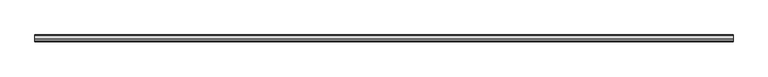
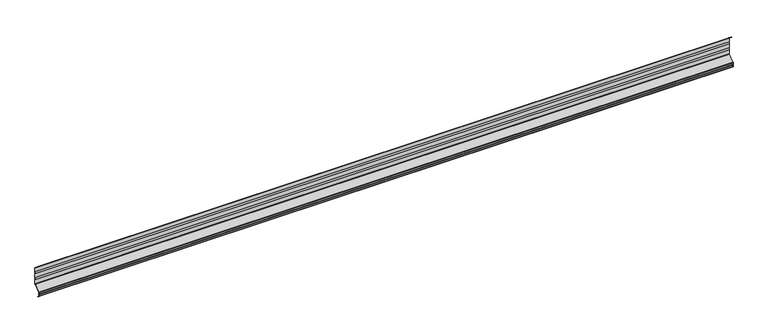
"""IFC4 building model written with IfcOpenShell, lengths in millimetres: plate geometry, HIANSA - H20.F09.004-CHAPA PERFILADA FACHADA HORIZONTAL - MT42 - Panel de Muro Cortina : -."""

from ifc_helpers import new_model, si_unit, point, frame, frame_2d, origin, place, context, project, spatial, polyline, circle_curve, trimmed, segment, composite_curve, outline, extrude, source, transform, mapped, element, save


def plate_d732e31f(model_context):
    return source(origin(), model_context, "Body", "SweptSolid", [
        extrude(outline(composite_curve([segment(polyline([(-1.8244302, 155.284153), (-25.0798035, 173.0), (-23.7596462, 173.0), (-1.3396394, 155.9205318)]), True, "CONTINUOUS"), segment(trimmed(circle_curve(frame_2d((-3.4, 153.2159219)), 3.4), [point((-1.3396394, 155.9205318))], [point((0.0, 153.2159219))], False, "CARTESIAN"), True, "CONTINUOUS"), segment(polyline([(0.0, 153.2159219), (0.0, 125.9329588)]), True, "CONTINUOUS"), segment(trimmed(circle_curve(frame_2d((17.1, 120.0)), 18.1), [point((0.0, 125.9329588))], [point((0.0, 114.0670412))], True, "CARTESIAN"), True, "CONTINUOUS"), segment(polyline([(0.0, 114.0670412), (0.0, 85.9329588)]), True, "CONTINUOUS"), segment(trimmed(circle_curve(frame_2d((17.1, 80.0)), 18.1), [point((0.0, 85.9329588))], [point((0.0, 74.0670412))], True, "CARTESIAN"), True, "CONTINUOUS"), segment(polyline([(0.0, 74.0670412), (0.0, 45.9499932)]), True, "CONTINUOUS"), segment(trimmed(circle_curve(frame_2d((-3.4, 45.9499932)), 3.4), [point((0.0, 45.9499932))], [point((-1.3396394, 43.2453834))], False, "CARTESIAN"), True, "CONTINUOUS"), segment(polyline([(-1.3396394, 43.2453834), (-40.2755698, 13.584153)]), True, "CONTINUOUS"), segment(trimmed(circle_curve(frame_2d((-38.7, 11.5159219)), 2.6), [point((-40.2755698, 13.584153))], [point((-41.3, 11.5159219))], True, "CARTESIAN"), True, "CONTINUOUS"), segment(polyline([(-41.3, 11.5159219), (-41.3, 2.5690465)]), True, "CONTINUOUS"), segment(trimmed(circle_curve(frame_2d((-44.1, 0.0)), 3.8), [point((-41.3, 2.5690465))], [point((-41.3, -2.5690465))], False, "CARTESIAN"), True, "CONTINUOUS"), segment(polyline([(-41.3, -2.5690465), (-41.3, -11.5159219)]), True, "CONTINUOUS"), segment(trimmed(circle_curve(frame_2d((-38.7, -11.5159219)), 2.6), [point((-41.3, -11.5159219))], [point((-40.2755698, -13.584153))], True, "CARTESIAN"), True, "CONTINUOUS"), segment(polyline([(-40.2755698, -13.584153), (-31.7588447, -20.0721589), (-31.7588447, -21.0778492), (-40.7603606, -14.2205318)]), True, "CONTINUOUS"), segment(trimmed(circle_curve(frame_2d((-38.7, -11.5159219)), 3.4), [point((-40.7603606, -14.2205318))], [point((-42.1, -11.5159219))], False, "CARTESIAN"), True, "CONTINUOUS"), segment(polyline([(-42.1, -11.5159219), (-42.1, -2.7568097)]), True, "CONTINUOUS"), segment(trimmed(circle_curve(frame_2d((-40.8, -2.7568097)), 1.3), [point((-42.1, -2.7568097))], [point((-41.7976744, -1.9233556))], False, "CARTESIAN"), True, "CONTINUOUS"), segment(trimmed(circle_curve(frame_2d((-44.1, 0.0)), 3.0), [point((-41.7976744, -1.9233556))], [point((-41.7976744, 1.9233556))], True, "CARTESIAN"), True, "CONTINUOUS"), segment(trimmed(circle_curve(frame_2d((-40.8, 2.7568097)), 1.3), [point((-41.7976744, 1.9233556))], [point((-42.1, 2.7568097))], False, "CARTESIAN"), True, "CONTINUOUS"), segment(polyline([(-42.1, 2.7568097), (-42.1, 11.5159219)]), True, "CONTINUOUS"), segment(trimmed(circle_curve(frame_2d((-38.7, 11.5159219)), 3.4), [point((-42.1, 11.5159219))], [point((-40.7603606, 14.2205318))], False, "CARTESIAN"), True, "CONTINUOUS"), segment(polyline([(-40.7603606, 14.2205318), (-1.8244302, 43.8817622)]), True, "CONTINUOUS"), segment(trimmed(circle_curve(frame_2d((-3.4, 45.9499932)), 2.6), [point((-1.8244302, 43.8817622))], [point((-0.8, 45.9499932))], True, "CARTESIAN"), True, "CONTINUOUS"), segment(polyline([(-0.8, 45.9499932), (-0.8, 73.9336996)]), True, "CONTINUOUS"), segment(trimmed(circle_curve(frame_2d((17.1, 80.0)), 18.9), [point((-0.8, 73.9336996))], [point((-0.8, 86.0663004))], False, "CARTESIAN"), True, "CONTINUOUS"), segment(polyline([(-0.8, 86.0663004), (-0.8, 113.9336996)]), True, "CONTINUOUS"), segment(trimmed(circle_curve(frame_2d((17.1, 120.0)), 18.9), [point((-0.8, 113.9336996))], [point((-0.8, 126.0663004))], False, "CARTESIAN"), True, "CONTINUOUS"), segment(polyline([(-0.8, 126.0663004), (-0.8, 153.2159219)]), True, "CONTINUOUS"), segment(trimmed(circle_curve(frame_2d((-3.4, 153.2159219)), 2.6), [point((-0.8, 153.2159219))], [point((-1.8244302, 155.284153))], True, "CARTESIAN"), True, "CONTINUOUS")], self_intersect=False)), frame((-2200.0, 0.0, 0.0), z_axis=(1.0, 0.0, 0.0), x_axis=(0.0, 1.0, 0.0)), (0.0, 0.0, 1.0), 4400.0),
    ])


if __name__ == "__main__":
    model = new_model("IFC4")
    model_context = context("Model", 3, world=origin())
    ifc_project = project(units=[si_unit("LENGTHUNIT", "METRE", prefix="MILLI")], contexts=[model_context])
    site = spatial("IfcSite", under=ifc_project)
    building = spatial("IfcBuilding", under=site)
    placement = place(None, origin())
    plate_shape = plate_d732e31f(model_context)
    element("IfcPlate", 1, ObjectType="HIANSA - H20.F09.004-CHAPA PERFILADA FACHADA HORIZONTAL - MT42 - Panel de Muro Cortina : -", at=placement, inside=building, context=model_context, shape_type="MappedRepresentation", body=[
        mapped(plate_shape, transform((0.0, 0.0, 0.0), x_axis=(1.0, 0.0, 0.0), y_axis=(0.0, 1.0, 0.0), z_axis=(0.0, 0.0, 1.0))),
    ])
    save(model, "model.ifc")
